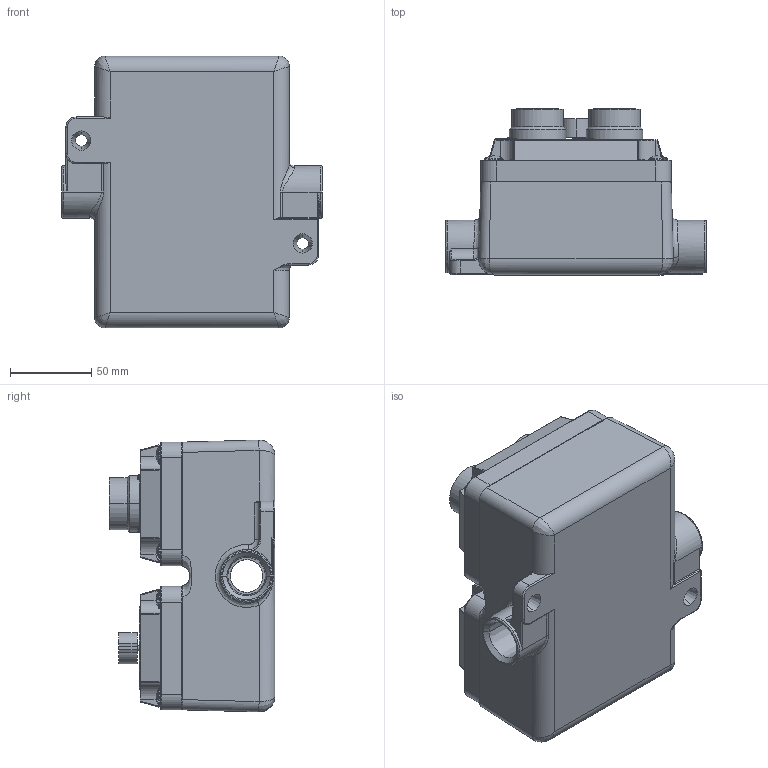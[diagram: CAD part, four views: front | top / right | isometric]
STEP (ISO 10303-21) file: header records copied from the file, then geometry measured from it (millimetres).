
FILE_DESCRIPTION (( 'STEP AP214' ), '1' );
FILE_NAME ('EPCS-2XPB.MS-24V-PTM.2K.STEP', '2021-09-30T20:31:42', ( '' ), ( '' ), 'SwSTEP 2.0', 'SolidWorks 2020', '' );
FILE_SCHEMA (( 'AUTOMOTIVE_DESIGN' ));
Length unit declared in the file: inch
Products named in the file (18): XCS-0B4_3; XCS-0B4_10; SWB-11; XCS-0B4_11; XCS-0B4_2; EPCS-2XPB.MS-24V-PTM.2K; XCS-0B4; XCS-0B4_9; Dial Top; XCS-0B4_6; XCS-0B4_12; XCS-0B4_5; XCS-0B4_4; XCS-0B4_7_Blank; XCS-0B4_7; XCS-0B4_8; XCS-0B4_13
Assembly tree (21 placements, depth 3):
  EPCS-2XPB.MS-24V-PTM.2K
    SWB-11
    XCS-0B4
      XCS-0B4_4
      XCS-0B4_13
      XCS-0B4_7
      XCS-0B4_5
      XCS-0B4_3
      XCS-0B4_9
      XCS-0B4_2
      XCS-0B4_11
      XCS-0B4_8
      XCS-0B4_10
      XCS-0B4
      XCS-0B4_6
      XCS-0B4_12
    XCS-0B4_7_Blank
    XCS-0B4_2  x4
    Dial Top
Bounding box: 160.68 x 102.27 x 167.66 mm (x, y, z)
Volume: 783164 mm3; surface area: 229508.2 mm2
Topology: 20 solids, 20 shells, 1146 faces, 2891 edges, 1723 vertices
Faces by surface type: cylinder 414, bspline 370, plane 278, cone 78, torus 6
Entity records: 53415 total; most frequent: CARTESIAN_POINT 21678, ORIENTED_EDGE 5242, DIRECTION 4298, EDGE_CURVE 2621, AXIS2_PLACEMENT_3D 1630, VERTEX_POINT 1599, EDGE_LOOP 1152, FACE_OUTER_BOUND 1074
